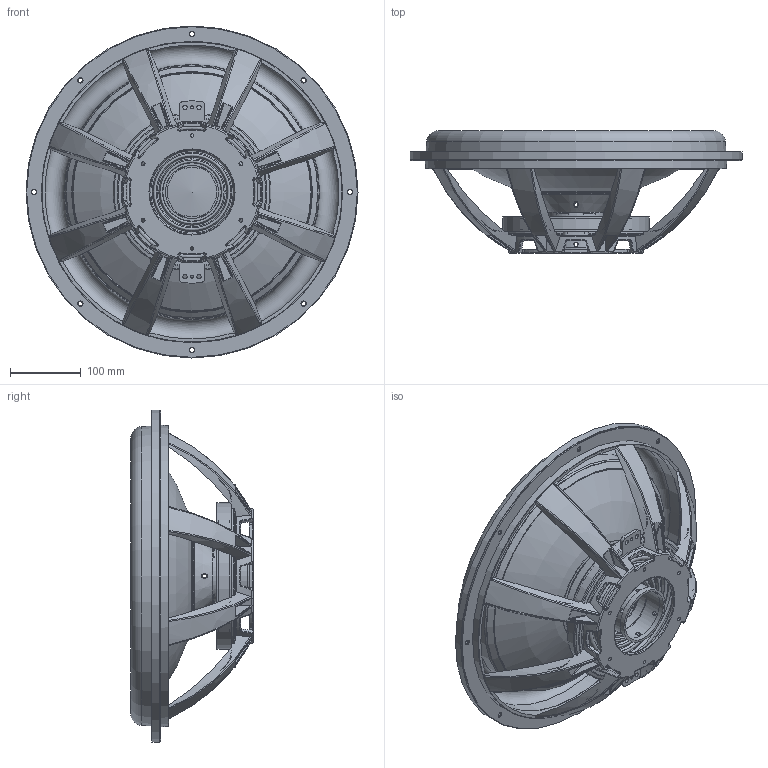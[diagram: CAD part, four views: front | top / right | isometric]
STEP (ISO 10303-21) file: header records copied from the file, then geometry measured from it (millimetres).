
FILE_DESCRIPTION(/* description */ (''),/* implementation_level */ '2;1');
FILE_NAME(/* name */ 'SS18-PR.step',/* time_stamp */ '2026-09-11T11:48:39-04:00',/* author */ (''),/* organization */ (''),/* preprocessor_version */ 'ST-DEVELOPER v20.1',/* originating_system */ 'Autodesk Translation Framework v15.8.0.0',/* authorisation */ '');
FILE_SCHEMA (('AUTOMOTIVE_DESIGN { 1 0 10303 214 3 1 1 }'));
Length unit declared in the file: millimetre
Products named in the file (3): 2026-09-11-11-31-25-608; AL_75_18CH_1_01_V1; 2026-09-11-11-21-02-210
Assembly tree (2 placements, depth 3):
  2026-09-11-11-31-25-608
    AL_75_18CH_1_01_V1
      2026-09-11-11-21-02-210
Bounding box: 470 x 173.5 x 470 mm (x, y, z)
Volume: 1356666.4 mm3; surface area: 1049451 mm2
Topology: 2 solids, 2 shells, 756 faces, 2141 edges, 1383 vertices
Faces by surface type: bspline 204, cylinder 178, plane 156, torus 136, cone 80, sphere 2
Full cylindrical faces by diameter (mm): 4.3 x2, 5.5 x6, 6 x10, 6.3 x4, 6.5 x8, 7.5 x8, 75.5 x2, 75.8 x4, 78.8 x1, 82.4 x1, 120 x1, 190 x2, 204 x2, 204.5 x2, 205.5 x1, 207 x1, 429 x1, 468 x1, 470 x1
Entity records: 55625 total; most frequent: CARTESIAN_POINT 36991, ORIENTED_EDGE 4278, DIRECTION 3600, EDGE_CURVE 2139, AXIS2_PLACEMENT_3D 1581, VERTEX_POINT 1383, CIRCLE 936, EDGE_LOOP 846
